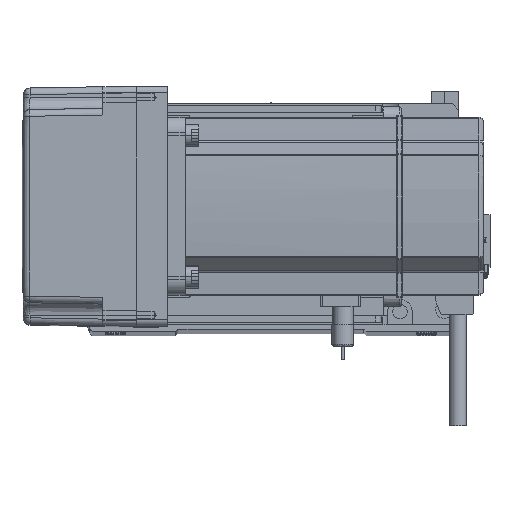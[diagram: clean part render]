
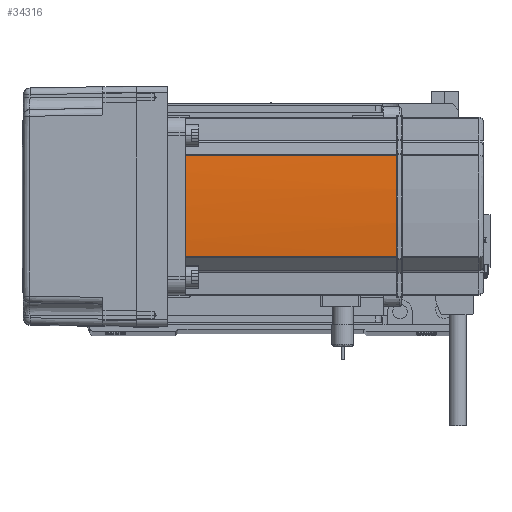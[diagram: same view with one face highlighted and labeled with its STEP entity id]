
A CAD part, top view. The second image highlights one B-rep face of the part: STEP entity #34316.
In plain terms, the highlighted cylindrical face has radius 270 mm (diameter 540 mm), a partial arc.
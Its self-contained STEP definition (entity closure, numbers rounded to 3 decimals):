
#1408 = LINE ( 'NONE', #8795, #47596 ) ;
#1859 = EDGE_LOOP ( 'NONE', ( #17106, #32698, #43672, #52520, #35111, #32611 ) ) ;
#2561 = AXIS2_PLACEMENT_3D ( 'NONE', #35688, #8701, #13258 ) ;
#4813 = AXIS2_PLACEMENT_3D ( 'NONE', #8238, #50298, #14346 ) ;
#5497 = CARTESIAN_POINT ( 'NONE',  ( 39.042, -22.724, 39. ) ) ;
#6949 = DIRECTION ( 'NONE',  ( 0., 0., -1. ) ) ;
#7995 = LINE ( 'NONE', #24779, #19962 ) ;
#8238 = CARTESIAN_POINT ( 'NONE',  ( -230., 0., 58. ) ) ;
#8701 = DIRECTION ( 'NONE',  ( 0., 0., -1. ) ) ;
#8795 = CARTESIAN_POINT ( 'NONE',  ( 39.042, 22.724, 58. ) ) ;
#9108 = DIRECTION ( 'NONE',  ( -1., 0., 0. ) ) ;
#10012 = CARTESIAN_POINT ( 'NONE',  ( 39.042, -22.724, 134. ) ) ;
#12394 = VERTEX_POINT ( 'NONE', #47927 ) ;
#13258 = DIRECTION ( 'NONE',  ( -1., 0., 0. ) ) ;
#13744 = AXIS2_PLACEMENT_3D ( 'NONE', #14045, #57026, #9108 ) ;
#14045 = CARTESIAN_POINT ( 'NONE',  ( -230., 0., 134. ) ) ;
#14346 = DIRECTION ( 'NONE',  ( -1., 0., 0. ) ) ;
#15118 = EDGE_CURVE ( 'NONE', #41044, #38188, #29873, .T. ) ;
#15682 = CIRCLE ( 'NONE', #13744, 270. ) ;
#17106 = ORIENTED_EDGE ( 'NONE', *, *, #38779, .T. ) ;
#17258 = CARTESIAN_POINT ( 'NONE',  ( 40., -0.127, 134. ) ) ;
#19962 = VECTOR ( 'NONE', #6949, 1000. ) ;
#24779 = CARTESIAN_POINT ( 'NONE',  ( 39.042, -22.724, 58. ) ) ;
#25479 = CARTESIAN_POINT ( 'NONE',  ( 40., 0.042, 134. ) ) ;
#26238 = CARTESIAN_POINT ( 'NONE',  ( 40., -0.042, 134. ) ) ;
#26996 = DIRECTION ( 'NONE',  ( -1., 0., 0. ) ) ;
#27269 = CARTESIAN_POINT ( 'NONE',  ( 39.042, 22.724, 134. ) ) ;
#29873 = CIRCLE ( 'NONE', #34201, 270. ) ;
#29982 = CARTESIAN_POINT ( 'NONE',  ( 40., 0.127, 134. ) ) ;
#30771 = VERTEX_POINT ( 'NONE', #10012 ) ;
#32103 = EDGE_CURVE ( 'NONE', #12394, #36048, #51414, .T. ) ;
#32248 = CIRCLE ( 'NONE', #2561, 270. ) ;
#32611 = ORIENTED_EDGE ( 'NONE', *, *, #35161, .T. ) ;
#32698 = ORIENTED_EDGE ( 'NONE', *, *, #15118, .F. ) ;
#34087 = CARTESIAN_POINT ( 'NONE',  ( 40., 0.127, 134. ) ) ;
#34201 = AXIS2_PLACEMENT_3D ( 'NONE', #35763, #53566, #26996 ) ;
#34316 = ADVANCED_FACE ( 'NONE', ( #35840 ), #47025, .T. ) ;
#35111 = ORIENTED_EDGE ( 'NONE', *, *, #32103, .F. ) ;
#35161 = EDGE_CURVE ( 'NONE', #12394, #30771, #32248, .T. ) ;
#35688 = CARTESIAN_POINT ( 'NONE',  ( -230., 0., 134. ) ) ;
#35763 = CARTESIAN_POINT ( 'NONE',  ( -230., 0., 39. ) ) ;
#35840 = FACE_OUTER_BOUND ( 'NONE', #1859, .T. ) ;
#36048 = VERTEX_POINT ( 'NONE', #34087 ) ;
#38188 = VERTEX_POINT ( 'NONE', #5497 ) ;
#38779 = EDGE_CURVE ( 'NONE', #30771, #38188, #7995, .T. ) ;
#41044 = VERTEX_POINT ( 'NONE', #54781 ) ;
#43672 = ORIENTED_EDGE ( 'NONE', *, *, #53503, .T. ) ;
#44388 = VERTEX_POINT ( 'NONE', #27269 ) ;
#47025 = CYLINDRICAL_SURFACE ( 'NONE', #4813, 270. ) ;
#47596 = VECTOR ( 'NONE', #53189, 1000. ) ;
#47927 = CARTESIAN_POINT ( 'NONE',  ( 40., -0.127, 134. ) ) ;
#50298 = DIRECTION ( 'NONE',  ( 0., 0., -1. ) ) ;
#50782 = EDGE_CURVE ( 'NONE', #44388, #36048, #15682, .T. ) ;
#51414 = B_SPLINE_CURVE_WITH_KNOTS ( 'NONE', 3,
 ( #17258, #26238, #25479, #29982 ),
 .UNSPECIFIED., .F., .F.,
 ( 4, 4 ),
 ( 0., 1. ),
 .UNSPECIFIED. ) ;
#52520 = ORIENTED_EDGE ( 'NONE', *, *, #50782, .T. ) ;
#53189 = DIRECTION ( 'NONE',  ( 0., 0., 1. ) ) ;
#53503 = EDGE_CURVE ( 'NONE', #41044, #44388, #1408, .T. ) ;
#53566 = DIRECTION ( 'NONE',  ( 0., 0., -1. ) ) ;
#54781 = CARTESIAN_POINT ( 'NONE',  ( 39.042, 22.724, 39. ) ) ;
#57026 = DIRECTION ( 'NONE',  ( 0., 0., -1. ) ) ;
